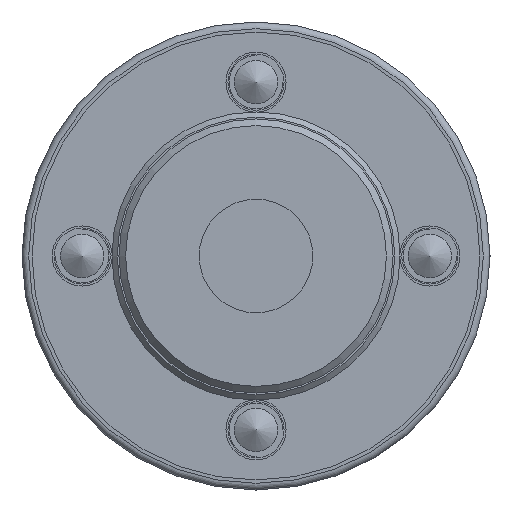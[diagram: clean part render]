
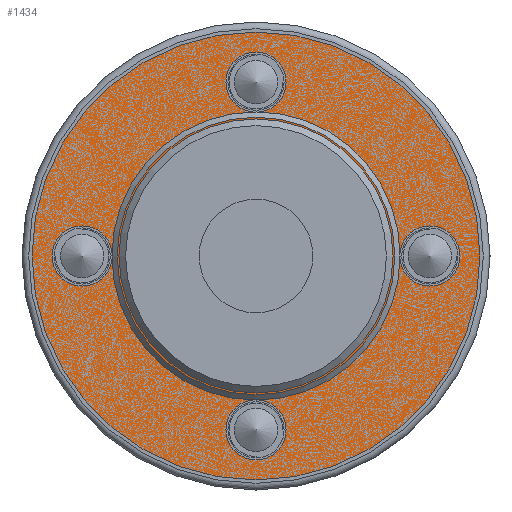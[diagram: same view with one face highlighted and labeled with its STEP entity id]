
A CAD part, front view. The second image highlights one B-rep face of the part: STEP entity #1434.
In plain terms, the highlighted planar face has unit normal (0, -1, 0).
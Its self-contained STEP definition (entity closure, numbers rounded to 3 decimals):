
#110 = CIRCLE ( 'NONE', #3024, 4.5 ) ;
#185 = AXIS2_PLACEMENT_3D ( 'NONE', #3205, #4755, #1276 ) ;
#220 = EDGE_LOOP ( 'NONE', ( #1830 ) ) ;
#262 = EDGE_LOOP ( 'NONE', ( #3986 ) ) ;
#285 = DIRECTION ( 'NONE',  ( 0., -1., 0. ) ) ;
#476 = AXIS2_PLACEMENT_3D ( 'NONE', #2603, #3672, #4450 ) ;
#481 = FACE_OUTER_BOUND ( 'NONE', #1638, .T. ) ;
#539 = CARTESIAN_POINT ( 'NONE',  ( 0., -13., -20.5 ) ) ;
#615 = CARTESIAN_POINT ( 'NONE',  ( 0., -13., 0. ) ) ;
#782 = DIRECTION ( 'NONE',  ( 0., 0., -1. ) ) ;
#864 = EDGE_CURVE ( 'NONE', #2925, #2925, #1364, .T. ) ;
#913 = EDGE_LOOP ( 'NONE', ( #2710 ) ) ;
#930 = EDGE_CURVE ( 'NONE', #2482, #2482, #1043, .T. ) ;
#939 = CARTESIAN_POINT ( 'NONE',  ( 0., -13., -30.5 ) ) ;
#1043 = CIRCLE ( 'NONE', #2985, 20.5 ) ;
#1069 = DIRECTION ( 'NONE',  ( 0., 0., -1. ) ) ;
#1240 = EDGE_CURVE ( 'NONE', #2978, #2978, #2983, .T. ) ;
#1276 = DIRECTION ( 'NONE',  ( 0., 0., -1. ) ) ;
#1311 = VERTEX_POINT ( 'NONE', #939 ) ;
#1364 = CIRCLE ( 'NONE', #476, 4.5 ) ;
#1434 = ADVANCED_FACE ( 'NONE', ( #2394, #3965, #3176, #481, #2018, #3592 ), #4371, .T. ) ;
#1447 = DIRECTION ( 'NONE',  ( 0., 1., 0. ) ) ;
#1638 = EDGE_LOOP ( 'NONE', ( #4586 ) ) ;
#1668 = EDGE_CURVE ( 'NONE', #4180, #4180, #110, .T. ) ;
#1710 = EDGE_LOOP ( 'NONE', ( #2383 ) ) ;
#1713 = CIRCLE ( 'NONE', #2617, 4.5 ) ;
#1829 = CARTESIAN_POINT ( 'NONE',  ( 26., -13., -4.5 ) ) ;
#1830 = ORIENTED_EDGE ( 'NONE', *, *, #930, .F. ) ;
#2018 = FACE_BOUND ( 'NONE', #220, .T. ) ;
#2214 = AXIS2_PLACEMENT_3D ( 'NONE', #2713, #4265, #782 ) ;
#2310 = CARTESIAN_POINT ( 'NONE',  ( 0., -13., 0. ) ) ;
#2383 = ORIENTED_EDGE ( 'NONE', *, *, #1668, .T. ) ;
#2394 = FACE_BOUND ( 'NONE', #262, .T. ) ;
#2482 = VERTEX_POINT ( 'NONE', #539 ) ;
#2603 = CARTESIAN_POINT ( 'NONE',  ( 0., -13., 26. ) ) ;
#2617 = AXIS2_PLACEMENT_3D ( 'NONE', #3799, #1447, #2997 ) ;
#2662 = CARTESIAN_POINT ( 'NONE',  ( 26., -13., 0. ) ) ;
#2708 = CIRCLE ( 'NONE', #2214, 4.5 ) ;
#2710 = ORIENTED_EDGE ( 'NONE', *, *, #864, .T. ) ;
#2713 = CARTESIAN_POINT ( 'NONE',  ( 0., -13., -26. ) ) ;
#2925 = VERTEX_POINT ( 'NONE', #3290 ) ;
#2978 = VERTEX_POINT ( 'NONE', #3875 ) ;
#2983 = CIRCLE ( 'NONE', #3228, 33.5 ) ;
#2985 = AXIS2_PLACEMENT_3D ( 'NONE', #615, #3394, #4876 ) ;
#2997 = DIRECTION ( 'NONE',  ( 0., 0., -1. ) ) ;
#3024 = AXIS2_PLACEMENT_3D ( 'NONE', #2662, #3861, #3041 ) ;
#3041 = DIRECTION ( 'NONE',  ( 0., 0., -1. ) ) ;
#3176 = FACE_BOUND ( 'NONE', #913, .T. ) ;
#3205 = CARTESIAN_POINT ( 'NONE',  ( 35., -13., 0. ) ) ;
#3228 = AXIS2_PLACEMENT_3D ( 'NONE', #2310, #285, #1069 ) ;
#3290 = CARTESIAN_POINT ( 'NONE',  ( 0., -13., 21.5 ) ) ;
#3394 = DIRECTION ( 'NONE',  ( 0., -1., 0. ) ) ;
#3592 = FACE_BOUND ( 'NONE', #1710, .T. ) ;
#3672 = DIRECTION ( 'NONE',  ( 0., 1., 0. ) ) ;
#3799 = CARTESIAN_POINT ( 'NONE',  ( -26., -13., 0. ) ) ;
#3839 = EDGE_CURVE ( 'NONE', #4060, #4060, #1713, .T. ) ;
#3861 = DIRECTION ( 'NONE',  ( 0., 1., 0. ) ) ;
#3875 = CARTESIAN_POINT ( 'NONE',  ( 0., -13., -33.5 ) ) ;
#3965 = FACE_BOUND ( 'NONE', #4006, .T. ) ;
#3986 = ORIENTED_EDGE ( 'NONE', *, *, #4368, .T. ) ;
#4006 = EDGE_LOOP ( 'NONE', ( #4298 ) ) ;
#4060 = VERTEX_POINT ( 'NONE', #4865 ) ;
#4180 = VERTEX_POINT ( 'NONE', #1829 ) ;
#4265 = DIRECTION ( 'NONE',  ( 0., 1., 0. ) ) ;
#4298 = ORIENTED_EDGE ( 'NONE', *, *, #3839, .T. ) ;
#4368 = EDGE_CURVE ( 'NONE', #1311, #1311, #2708, .T. ) ;
#4371 = PLANE ( 'NONE',  #185 ) ;
#4450 = DIRECTION ( 'NONE',  ( 0., 0., -1. ) ) ;
#4586 = ORIENTED_EDGE ( 'NONE', *, *, #1240, .T. ) ;
#4755 = DIRECTION ( 'NONE',  ( 0., -1., 0. ) ) ;
#4865 = CARTESIAN_POINT ( 'NONE',  ( -26., -13., -4.5 ) ) ;
#4876 = DIRECTION ( 'NONE',  ( 0., 0., -1. ) ) ;
